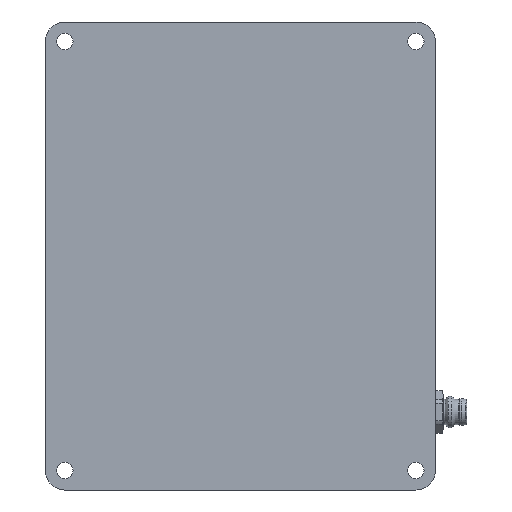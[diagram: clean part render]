
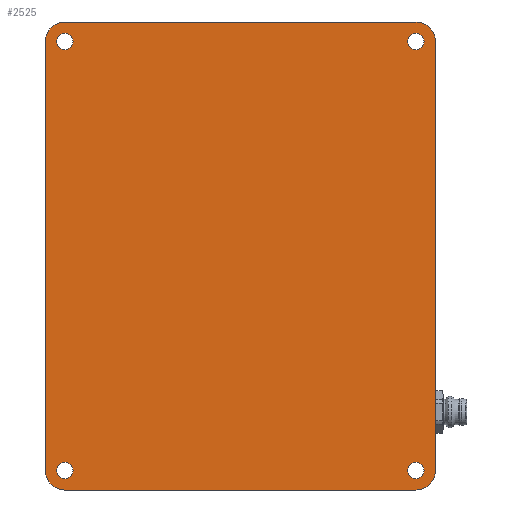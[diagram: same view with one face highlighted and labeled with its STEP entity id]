
A CAD part, front view. The second image highlights one B-rep face of the part: STEP entity #2525.
In plain terms, the highlighted planar face has unit normal (0, -1, 0).
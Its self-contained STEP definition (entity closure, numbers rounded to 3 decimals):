
#36 = CIRCLE ( 'NONE', #2258, 2.1 ) ;
#39 = AXIS2_PLACEMENT_3D ( 'NONE', #4032, #2145, #2529 ) ;
#91 = DIRECTION ( 'NONE',  ( 0., 0., 1. ) ) ;
#131 = CIRCLE ( 'NONE', #1331, 2.1 ) ;
#141 = VERTEX_POINT ( 'NONE', #3578 ) ;
#163 = CARTESIAN_POINT ( 'NONE',  ( -45., 0., -55. ) ) ;
#199 = ORIENTED_EDGE ( 'NONE', *, *, #2696, .T. ) ;
#254 = DIRECTION ( 'NONE',  ( 0., 0., -1. ) ) ;
#256 = EDGE_CURVE ( 'NONE', #4130, #4130, #4245, .T. ) ;
#443 = EDGE_CURVE ( 'NONE', #3531, #2926, #4128, .T. ) ;
#448 = EDGE_CURVE ( 'NONE', #3857, #3857, #131, .T. ) ;
#540 = CIRCLE ( 'NONE', #2424, 5. ) ;
#598 = ORIENTED_EDGE ( 'NONE', *, *, #3970, .T. ) ;
#629 = CARTESIAN_POINT ( 'NONE',  ( -45., 0., -55. ) ) ;
#725 = VECTOR ( 'NONE', #3258, 1000. ) ;
#761 = AXIS2_PLACEMENT_3D ( 'NONE', #3185, #1705, #2089 ) ;
#798 = CARTESIAN_POINT ( 'NONE',  ( 45., 0., -60. ) ) ;
#843 = ORIENTED_EDGE ( 'NONE', *, *, #448, .T. ) ;
#893 = EDGE_LOOP ( 'NONE', ( #4101 ) ) ;
#906 = FACE_BOUND ( 'NONE', #893, .T. ) ;
#979 = CARTESIAN_POINT ( 'NONE',  ( 45., 0., 57.1 ) ) ;
#1012 = DIRECTION ( 'NONE',  ( 0., 0., 1. ) ) ;
#1029 = CARTESIAN_POINT ( 'NONE',  ( 45., 0., -52.9 ) ) ;
#1093 = CIRCLE ( 'NONE', #2562, 5. ) ;
#1170 = DIRECTION ( 'NONE',  ( 0., 0., 1. ) ) ;
#1196 = CIRCLE ( 'NONE', #761, 5. ) ;
#1210 = DIRECTION ( 'NONE',  ( 0., -1., 0. ) ) ;
#1238 = EDGE_LOOP ( 'NONE', ( #1382 ) ) ;
#1242 = LINE ( 'NONE', #1773, #2079 ) ;
#1251 = ORIENTED_EDGE ( 'NONE', *, *, #2768, .F. ) ;
#1298 = VERTEX_POINT ( 'NONE', #2590 ) ;
#1331 = AXIS2_PLACEMENT_3D ( 'NONE', #1572, #4511, #3770 ) ;
#1382 = ORIENTED_EDGE ( 'NONE', *, *, #3227, .T. ) ;
#1385 = CARTESIAN_POINT ( 'NONE',  ( -45., 0., -52.9 ) ) ;
#1533 = ORIENTED_EDGE ( 'NONE', *, *, #1995, .F. ) ;
#1538 = EDGE_LOOP ( 'NONE', ( #1533, #3209, #1251, #598, #2968, #4682, #2625, #199 ) ) ;
#1572 = CARTESIAN_POINT ( 'NONE',  ( 45., 0., 55. ) ) ;
#1594 = ORIENTED_EDGE ( 'NONE', *, *, #4646, .T. ) ;
#1640 = CARTESIAN_POINT ( 'NONE',  ( 45., 0., -55. ) ) ;
#1695 = CARTESIAN_POINT ( 'NONE',  ( -50., 0., 60. ) ) ;
#1705 = DIRECTION ( 'NONE',  ( 0., -1., 0. ) ) ;
#1735 = FACE_OUTER_BOUND ( 'NONE', #1538, .T. ) ;
#1773 = CARTESIAN_POINT ( 'NONE',  ( 50., 0., 60. ) ) ;
#1921 = VECTOR ( 'NONE', #3615, 1000. ) ;
#1972 = DIRECTION ( 'NONE',  ( 0., 1., 0. ) ) ;
#1995 = EDGE_CURVE ( 'NONE', #3720, #3373, #2088, .T. ) ;
#2012 = EDGE_CURVE ( 'NONE', #141, #2926, #3536, .T. ) ;
#2030 = EDGE_LOOP ( 'NONE', ( #843 ) ) ;
#2079 = VECTOR ( 'NONE', #254, 1000. ) ;
#2088 = LINE ( 'NONE', #4369, #1921 ) ;
#2089 = DIRECTION ( 'NONE',  ( 0., 0., 1. ) ) ;
#2145 = DIRECTION ( 'NONE',  ( 0., 1., 0. ) ) ;
#2185 = DIRECTION ( 'NONE',  ( 0., 1., 0. ) ) ;
#2203 = VERTEX_POINT ( 'NONE', #1385 ) ;
#2206 = DIRECTION ( 'NONE',  ( 0., -1., 0. ) ) ;
#2207 = CARTESIAN_POINT ( 'NONE',  ( -50., 0., -55. ) ) ;
#2225 = PLANE ( 'NONE',  #39 ) ;
#2258 = AXIS2_PLACEMENT_3D ( 'NONE', #3430, #1972, #1170 ) ;
#2318 = EDGE_CURVE ( 'NONE', #141, #2325, #4312, .T. ) ;
#2325 = VERTEX_POINT ( 'NONE', #4297 ) ;
#2395 = DIRECTION ( 'NONE',  ( 0., 0., 1. ) ) ;
#2424 = AXIS2_PLACEMENT_3D ( 'NONE', #629, #3569, #1012 ) ;
#2525 = ADVANCED_FACE ( 'NONE', ( #3592, #3047, #2983, #906, #1735 ), #2225, .F. ) ;
#2529 = DIRECTION ( 'NONE',  ( 0., 0., 1. ) ) ;
#2562 = AXIS2_PLACEMENT_3D ( 'NONE', #1640, #1210, #2395 ) ;
#2590 = CARTESIAN_POINT ( 'NONE',  ( 50., 0., 55. ) ) ;
#2625 = ORIENTED_EDGE ( 'NONE', *, *, #443, .F. ) ;
#2696 = EDGE_CURVE ( 'NONE', #3531, #3373, #540, .T. ) ;
#2768 = EDGE_CURVE ( 'NONE', #1298, #3469, #1242, .T. ) ;
#2830 = DIRECTION ( 'NONE',  ( 0., 0., 1. ) ) ;
#2901 = CARTESIAN_POINT ( 'NONE',  ( -45., 0., 55. ) ) ;
#2926 = VERTEX_POINT ( 'NONE', #4059 ) ;
#2968 = ORIENTED_EDGE ( 'NONE', *, *, #2318, .F. ) ;
#2983 = FACE_BOUND ( 'NONE', #2030, .T. ) ;
#3047 = FACE_BOUND ( 'NONE', #4135, .T. ) ;
#3185 = CARTESIAN_POINT ( 'NONE',  ( 45., 0., 55. ) ) ;
#3209 = ORIENTED_EDGE ( 'NONE', *, *, #3841, .T. ) ;
#3227 = EDGE_CURVE ( 'NONE', #2203, #2203, #3899, .T. ) ;
#3258 = DIRECTION ( 'NONE',  ( 1., 0., 0. ) ) ;
#3373 = VERTEX_POINT ( 'NONE', #3978 ) ;
#3392 = CARTESIAN_POINT ( 'NONE',  ( -50., 0., 60. ) ) ;
#3415 = AXIS2_PLACEMENT_3D ( 'NONE', #2901, #2206, #4351 ) ;
#3430 = CARTESIAN_POINT ( 'NONE',  ( 45., 0., -55. ) ) ;
#3469 = VERTEX_POINT ( 'NONE', #3649 ) ;
#3519 = DIRECTION ( 'NONE',  ( 0., 1., 0. ) ) ;
#3531 = VERTEX_POINT ( 'NONE', #2207 ) ;
#3536 = CIRCLE ( 'NONE', #3415, 5. ) ;
#3559 = AXIS2_PLACEMENT_3D ( 'NONE', #163, #3519, #2830 ) ;
#3569 = DIRECTION ( 'NONE',  ( 0., -1., 0. ) ) ;
#3578 = CARTESIAN_POINT ( 'NONE',  ( -45., 0., 60. ) ) ;
#3592 = FACE_BOUND ( 'NONE', #1238, .T. ) ;
#3614 = AXIS2_PLACEMENT_3D ( 'NONE', #3626, #2185, #3663 ) ;
#3615 = DIRECTION ( 'NONE',  ( -1., 0., 0. ) ) ;
#3626 = CARTESIAN_POINT ( 'NONE',  ( -45., 0., 55. ) ) ;
#3632 = VECTOR ( 'NONE', #91, 1000. ) ;
#3649 = CARTESIAN_POINT ( 'NONE',  ( 50., 0., -55. ) ) ;
#3663 = DIRECTION ( 'NONE',  ( 0., 0., 1. ) ) ;
#3720 = VERTEX_POINT ( 'NONE', #798 ) ;
#3770 = DIRECTION ( 'NONE',  ( 0., 0., 1. ) ) ;
#3841 = EDGE_CURVE ( 'NONE', #3720, #3469, #1093, .T. ) ;
#3857 = VERTEX_POINT ( 'NONE', #979 ) ;
#3899 = CIRCLE ( 'NONE', #3559, 2.1 ) ;
#3970 = EDGE_CURVE ( 'NONE', #1298, #2325, #1196, .T. ) ;
#3978 = CARTESIAN_POINT ( 'NONE',  ( -45., 0., -60. ) ) ;
#4032 = CARTESIAN_POINT ( 'NONE',  ( 0., 0., 0. ) ) ;
#4059 = CARTESIAN_POINT ( 'NONE',  ( -50., 0., 55. ) ) ;
#4101 = ORIENTED_EDGE ( 'NONE', *, *, #256, .T. ) ;
#4128 = LINE ( 'NONE', #3392, #3632 ) ;
#4130 = VERTEX_POINT ( 'NONE', #4653 ) ;
#4135 = EDGE_LOOP ( 'NONE', ( #1594 ) ) ;
#4245 = CIRCLE ( 'NONE', #3614, 2.1 ) ;
#4297 = CARTESIAN_POINT ( 'NONE',  ( 45., 0., 60. ) ) ;
#4312 = LINE ( 'NONE', #1695, #725 ) ;
#4351 = DIRECTION ( 'NONE',  ( 0., 0., 1. ) ) ;
#4369 = CARTESIAN_POINT ( 'NONE',  ( -50., 0., -60. ) ) ;
#4440 = VERTEX_POINT ( 'NONE', #1029 ) ;
#4511 = DIRECTION ( 'NONE',  ( 0., 1., 0. ) ) ;
#4646 = EDGE_CURVE ( 'NONE', #4440, #4440, #36, .T. ) ;
#4653 = CARTESIAN_POINT ( 'NONE',  ( -45., 0., 57.1 ) ) ;
#4682 = ORIENTED_EDGE ( 'NONE', *, *, #2012, .T. ) ;
